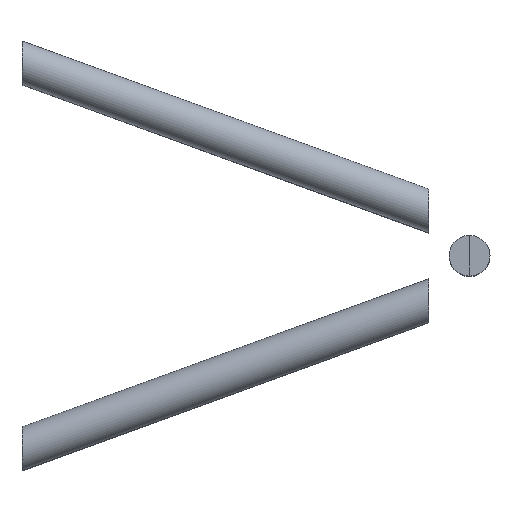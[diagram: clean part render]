
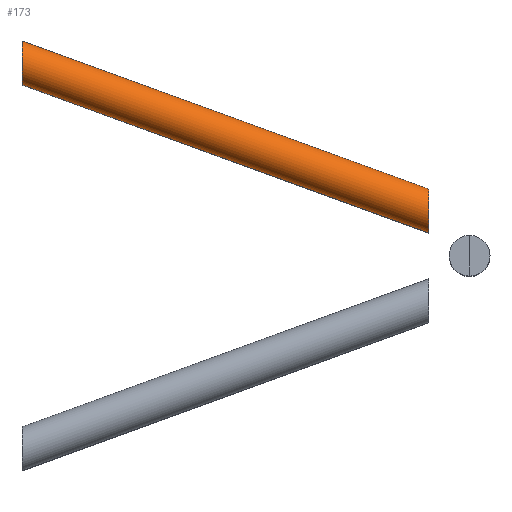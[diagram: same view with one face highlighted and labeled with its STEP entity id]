
A CAD part, top view. The second image highlights one B-rep face of the part: STEP entity #173.
In plain terms, the highlighted cylindrical face has radius 12.5 mm (diameter 25 mm), a full revolution.
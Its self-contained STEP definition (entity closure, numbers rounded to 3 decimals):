
#26=FACE_BOUND('',#56,.T.);
#31=CYLINDRICAL_SURFACE('',#210,12.5);
#38=FACE_OUTER_BOUND('',#55,.T.);
#55=EDGE_LOOP('',(#111));
#56=EDGE_LOOP('',(#112));
#75=ELLIPSE('',#207,13.302,12.5);
#76=ELLIPSE('',#209,13.302,12.5);
#83=VERTEX_POINT('',#299);
#84=VERTEX_POINT('',#302);
#95=EDGE_CURVE('',#83,#83,#75,.T.);
#96=EDGE_CURVE('',#84,#84,#76,.T.);
#111=ORIENTED_EDGE('',*,*,#95,.T.);
#112=ORIENTED_EDGE('',*,*,#96,.T.);
#173=ADVANCED_FACE('',(#38,#26),#31,.T.);
#207=AXIS2_PLACEMENT_3D('',#300,#239,#240);
#209=AXIS2_PLACEMENT_3D('',#303,#243,#244);
#210=AXIS2_PLACEMENT_3D('',#304,#245,#246);
#239=DIRECTION('center_axis',(1.,0.,0.));
#240=DIRECTION('ref_axis',(0.,-1.,0.));
#243=DIRECTION('center_axis',(-1.,0.,0.));
#244=DIRECTION('ref_axis',(0.,-1.,0.));
#245=DIRECTION('center_axis',(0.94,-0.342,0.));
#246=DIRECTION('ref_axis',(-0.342,-0.94,0.));
#299=CARTESIAN_POINT('',(-274.85,396.155,207.));
#300=CARTESIAN_POINT('Origin',(-274.85,382.853,207.));
#302=CARTESIAN_POINT('',(-25.85,278.922,207.));
#303=CARTESIAN_POINT('Origin',(-25.85,292.225,207.));
#304=CARTESIAN_POINT('Origin',(-150.35,337.539,207.));
